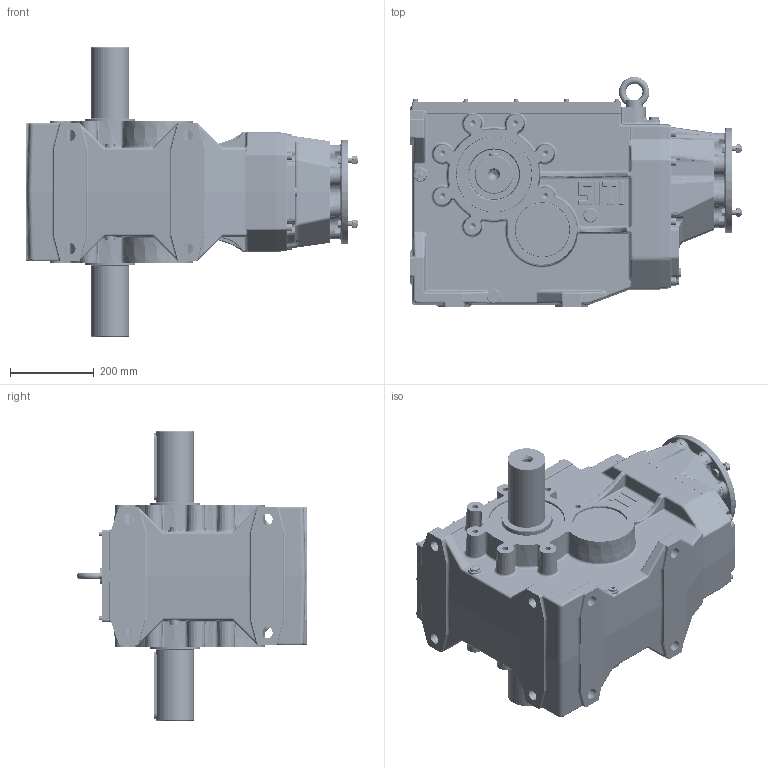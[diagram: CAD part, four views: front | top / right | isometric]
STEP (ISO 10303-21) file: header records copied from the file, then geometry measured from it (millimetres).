
FILE_DESCRIPTION((''),'2;1');
FILE_NAME('O:\Figurini\Figurini BH\3D\160\MBH 160 MD PAM 100-112 B5.stp','2013-05-17T16:28:03',('d.iannaccio'),(''),'Autodesk Inventor 2012','Autodesk Inventor 2012','');
FILE_SCHEMA(('AUTOMOTIVE_DESIGN { 1 0 10303 214 1 1 1 1 }'));
Length unit declared in the file: millimetre
Products named in the file (1): MBH_160 MD PAM 100-112 B5
Bounding box: 791 x 547.98 x 690 mm (x, y, z)
Volume: 28710793.9 mm3; surface area: 3458551.5 mm2
Topology: 71 solids, 73 shells, 4039 faces, 9679 edges, 5775 vertices
Faces by surface type: plane 1155, cylinder 1096, bspline 810, torus 468, cone 435, sphere 75
Full cylindrical faces by diameter (mm): 1.5 x1, 4.917 x12, 6 x24, 6.4 x12, 7 x12, 10 x12, 10.106 x16, 11 x2, 12 x54, 12.5 x14, 13 x16, 13.835 x14, 14 x4, 14.95 x8, 17.25 x2, 17.294 x3, 18 x16, 20 x2, 20.5 x16, 21 x2, 22 x1, 24 x1, 24.95 x1, 25 x2, 26 x9, 30 x5, 38 x1, 40 x1, 40.41 x1, 72 x1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
Entity records: 151790 total; most frequent: CARTESIAN_POINT 62314, ORIENTED_EDGE 17254, DIRECTION 17233, EDGE_CURVE 8627, AXIS2_PLACEMENT_3D 7301, VERTEX_POINT 5501, EDGE_LOOP 4941, STYLED_ITEM 4110
